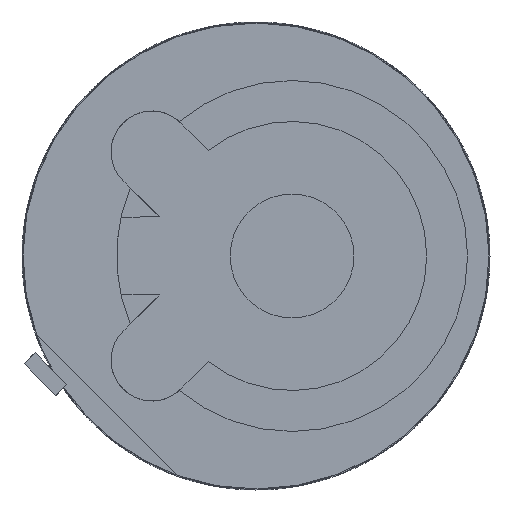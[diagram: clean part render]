
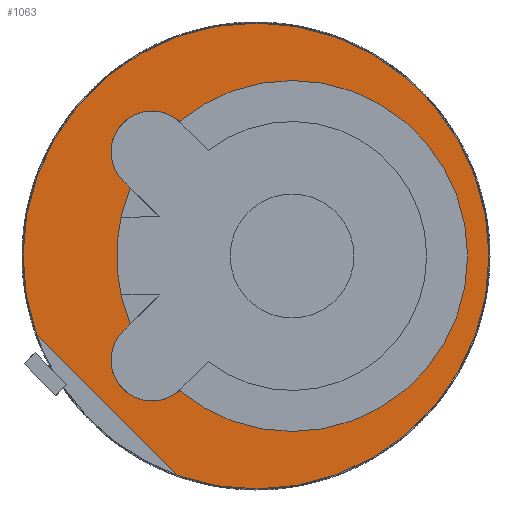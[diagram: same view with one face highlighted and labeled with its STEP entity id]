
A CAD part, front view. The second image highlights one B-rep face of the part: STEP entity #1063.
In plain terms, the highlighted planar face has unit normal (0, -1, 0).
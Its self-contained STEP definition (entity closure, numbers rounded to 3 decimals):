
#18 = DIRECTION ( 'NONE',  ( -0.707, 0., 0.707 ) ) ;
#83 = VERTEX_POINT ( 'NONE', #5347 ) ;
#106 = DIRECTION ( 'NONE',  ( 0., 0., -1. ) ) ;
#124 = CARTESIAN_POINT ( 'NONE',  ( 1.85, 0., 0. ) ) ;
#243 = ORIENTED_EDGE ( 'NONE', *, *, #5681, .F. ) ;
#372 = EDGE_CURVE ( 'NONE', #2623, #6590, #6537, .T. ) ;
#483 = LINE ( 'NONE', #6589, #4535 ) ;
#531 = ORIENTED_EDGE ( 'NONE', *, *, #5747, .T. ) ;
#622 = VECTOR ( 'NONE', #1230, 1000. ) ;
#687 = CIRCLE ( 'NONE', #2096, 2.1 ) ;
#720 = DIRECTION ( 'NONE',  ( 0., 0., 1. ) ) ;
#812 = CARTESIAN_POINT ( 'NONE',  ( -11.254, 0., -4.02 ) ) ;
#874 = CARTESIAN_POINT ( 'NONE',  ( -4.02, 0., -11.254 ) ) ;
#1063 = ADVANCED_FACE ( 'NONE', ( #4286, #4451 ), #4328, .F. ) ;
#1149 = EDGE_LOOP ( 'NONE', ( #243, #6107, #1696, #5699, #4224, #531 ) ) ;
#1173 = VERTEX_POINT ( 'NONE', #812 ) ;
#1230 = DIRECTION ( 'NONE',  ( -0.707, 0., 0.707 ) ) ;
#1436 = CARTESIAN_POINT ( 'NONE',  ( 1.85, 0., 0. ) ) ;
#1544 = AXIS2_PLACEMENT_3D ( 'NONE', #124, #4192, #1649 ) ;
#1595 = LINE ( 'NONE', #1688, #6356 ) ;
#1649 = DIRECTION ( 'NONE',  ( 0., 0., -1. ) ) ;
#1688 = CARTESIAN_POINT ( 'NONE',  ( -1.485, 0., 1.485 ) ) ;
#1696 = ORIENTED_EDGE ( 'NONE', *, *, #1940, .T. ) ;
#1716 = AXIS2_PLACEMENT_3D ( 'NONE', #5098, #3551, #6563 ) ;
#1791 = CARTESIAN_POINT ( 'NONE',  ( 0., 0., 0. ) ) ;
#1801 = EDGE_CURVE ( 'NONE', #1173, #2074, #2819, .T. ) ;
#1940 = EDGE_CURVE ( 'NONE', #3063, #83, #5555, .T. ) ;
#2074 = VERTEX_POINT ( 'NONE', #874 ) ;
#2096 = AXIS2_PLACEMENT_3D ( 'NONE', #3671, #4204, #106 ) ;
#2623 = VERTEX_POINT ( 'NONE', #4520 ) ;
#2659 = ORIENTED_EDGE ( 'NONE', *, *, #6104, .F. ) ;
#2721 = EDGE_CURVE ( 'NONE', #6590, #83, #687, .T. ) ;
#2819 = CIRCLE ( 'NONE', #1716, 11.95 ) ;
#2997 = DIRECTION ( 'NONE',  ( 0., -1., 0. ) ) ;
#3049 = CARTESIAN_POINT ( 'NONE',  ( -6.45, 0., -3.48 ) ) ;
#3063 = VERTEX_POINT ( 'NONE', #4512 ) ;
#3208 = VERTEX_POINT ( 'NONE', #3049 ) ;
#3551 = DIRECTION ( 'NONE',  ( 0., 1., 0. ) ) ;
#3591 = EDGE_LOOP ( 'NONE', ( #3604, #2659 ) ) ;
#3604 = ORIENTED_EDGE ( 'NONE', *, *, #1801, .F. ) ;
#3638 = CARTESIAN_POINT ( 'NONE',  ( -5.339, 0., -5.339 ) ) ;
#3671 = CARTESIAN_POINT ( 'NONE',  ( -5.339, 0., 5.339 ) ) ;
#3686 = CARTESIAN_POINT ( 'NONE',  ( -1.485, 0., -1.485 ) ) ;
#3720 = EDGE_CURVE ( 'NONE', #3063, #3208, #4264, .T. ) ;
#3721 = VERTEX_POINT ( 'NONE', #6217 ) ;
#3727 = DIRECTION ( 'NONE',  ( 0., 0., 1. ) ) ;
#3960 = CARTESIAN_POINT ( 'NONE',  ( -3.931, 0., 6.897 ) ) ;
#4005 = DIRECTION ( 'NONE',  ( 0., 0., -1. ) ) ;
#4192 = DIRECTION ( 'NONE',  ( 0., -1., 0. ) ) ;
#4204 = DIRECTION ( 'NONE',  ( 0., -1., 0. ) ) ;
#4224 = ORIENTED_EDGE ( 'NONE', *, *, #372, .F. ) ;
#4264 = CIRCLE ( 'NONE', #1544, 9. ) ;
#4286 = FACE_OUTER_BOUND ( 'NONE', #3591, .T. ) ;
#4328 = PLANE ( 'NONE',  #5139 ) ;
#4451 = FACE_BOUND ( 'NONE', #1149, .T. ) ;
#4512 = CARTESIAN_POINT ( 'NONE',  ( -6.45, 0., 3.48 ) ) ;
#4520 = CARTESIAN_POINT ( 'NONE',  ( -3.931, 0., -6.897 ) ) ;
#4535 = VECTOR ( 'NONE', #18, 1000. ) ;
#4867 = AXIS2_PLACEMENT_3D ( 'NONE', #1436, #2997, #4005 ) ;
#5098 = CARTESIAN_POINT ( 'NONE',  ( 0., 0., 0. ) ) ;
#5139 = AXIS2_PLACEMENT_3D ( 'NONE', #1791, #5351, #720 ) ;
#5215 = DIRECTION ( 'NONE',  ( 0., 1., 0. ) ) ;
#5347 = CARTESIAN_POINT ( 'NONE',  ( -6.824, 0., 3.854 ) ) ;
#5351 = DIRECTION ( 'NONE',  ( 0., 1., 0. ) ) ;
#5555 = LINE ( 'NONE', #3686, #622 ) ;
#5679 = DIRECTION ( 'NONE',  ( -0.707, 0., -0.707 ) ) ;
#5681 = EDGE_CURVE ( 'NONE', #3208, #3721, #1595, .T. ) ;
#5699 = ORIENTED_EDGE ( 'NONE', *, *, #2721, .F. ) ;
#5747 = EDGE_CURVE ( 'NONE', #2623, #3721, #6446, .T. ) ;
#6104 = EDGE_CURVE ( 'NONE', #2074, #1173, #483, .T. ) ;
#6107 = ORIENTED_EDGE ( 'NONE', *, *, #3720, .F. ) ;
#6217 = CARTESIAN_POINT ( 'NONE',  ( -6.824, 0., -3.854 ) ) ;
#6310 = AXIS2_PLACEMENT_3D ( 'NONE', #3638, #5215, #3727 ) ;
#6356 = VECTOR ( 'NONE', #5679, 1000. ) ;
#6446 = CIRCLE ( 'NONE', #6310, 2.1 ) ;
#6537 = CIRCLE ( 'NONE', #4867, 9. ) ;
#6563 = DIRECTION ( 'NONE',  ( 0., 0., 1. ) ) ;
#6589 = CARTESIAN_POINT ( 'NONE',  ( -4.02, 0., -11.254 ) ) ;
#6590 = VERTEX_POINT ( 'NONE', #3960 ) ;
